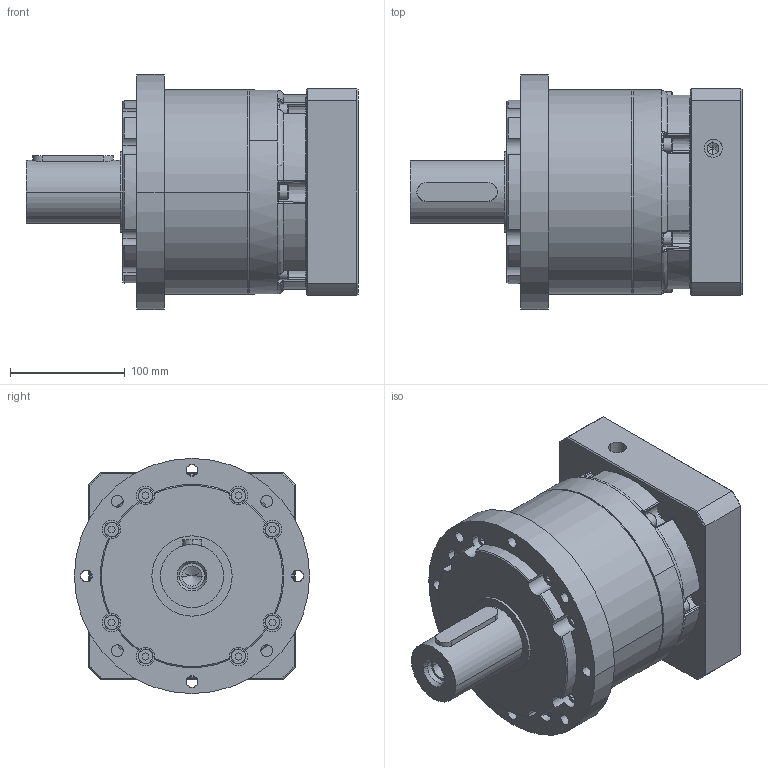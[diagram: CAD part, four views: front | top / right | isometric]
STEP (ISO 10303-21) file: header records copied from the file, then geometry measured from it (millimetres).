
FILE_DESCRIPTION (( 'STEP AP203' ), '1' );
FILE_NAME ('6C6XS.110180.142.STEP', '2019-06-11T08:28:02', ( '' ), ( '' ), 'SwSTEP 2.0', 'SolidWorks 2010', '' );
FILE_SCHEMA (( 'CONFIG_CONTROL_DESIGN' ));
Length unit declared in the file: millimetre
Products named in the file (10): PGCH205-B(模型)_4.成品; PGC205連接板234B067417_3.成品; 6C6XS.110180.142; 內六角螺絲M8x20_M8x20L; PGCH205-FP(模型)_9.成品; 雙圓鍵16x10x70L_Default; PGC205-BP(模型)_2.銑攻; 內六角螺絲M12x25_M12*25L; PGL180-LK_3.成品; 內六角螺絲M8x40_M8x40L
Assembly tree (27 placements, depth 2):
  6C6XS.110180.142
    內六角螺絲M8x40_M8x40L  x12
    內六角螺絲M12x25_M12*25L
    內六角螺絲M8x20_M8x20L  x8
    PGC205連接板234B067417_3.成品
    PGCH205-B(模型)_4.成品
    雙圓鍵16x10x70L_Default
    PGL180-LK_3.成品
    PGC205-BP(模型)_2.銑攻
    PGCH205-FP(模型)_9.成品
Bounding box: 289.5 x 205 x 205 mm (x, y, z)
Volume: 5249694.3 mm3; surface area: 488630.6 mm2
Topology: 27 solids, 27 shells, 955 faces, 2202 edges, 1340 vertices
Faces by surface type: cylinder 321, plane 295, cone 216, torus 87, bspline 24, sphere 12
Entity records: 24307 total; most frequent: CARTESIAN_POINT 9321, DIRECTION 3023, ORIENTED_EDGE 2688, EDGE_CURVE 1344, AXIS2_PLACEMENT_3D 1266, VERTEX_POINT 836, CIRCLE 701, EDGE_LOOP 668
